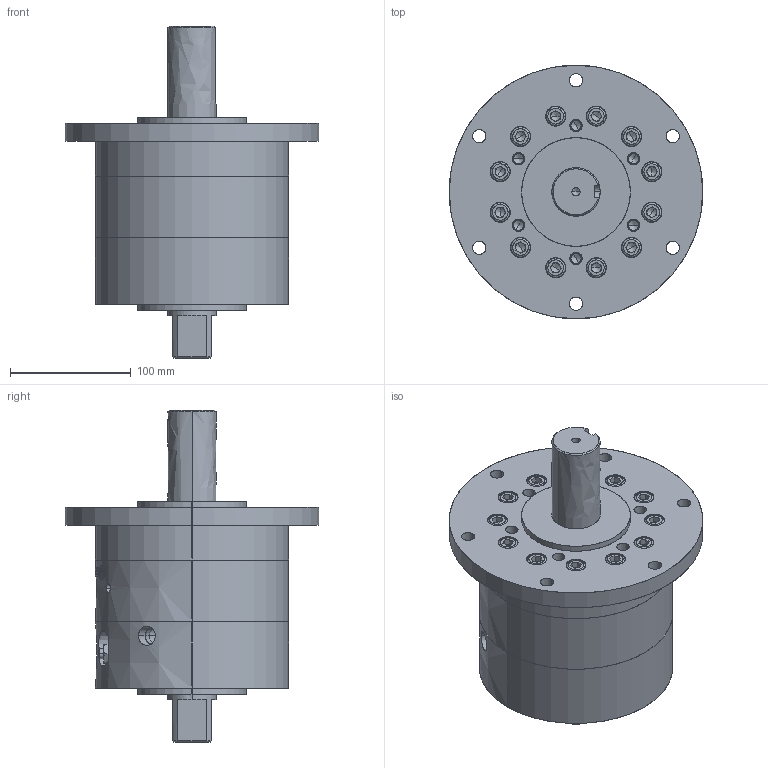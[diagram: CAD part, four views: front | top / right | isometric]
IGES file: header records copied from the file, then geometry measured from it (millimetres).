
Start section: SolidWorks IGES file using analytic representation for surfaces
Global section: file name: C:\Users\Chieh_Lu\Dropbox\¤u§@«Ç\HRN\HRN200S-C.IGS; native system: SolidWorks 2014; preprocessor: SolidWorks 2014; author: Chieh_Lu; date: 160115.010054; units: millimetre
Bounding box: 210 x 210 x 275 mm (x, y, z)
Surface area: 387585.8 mm2 (no closed solid volume)
Topology: 0 solids, 0 shells, 1045 faces, 12934 edges, 12850 vertices
Faces by surface type: bspline 611, revolution 434
